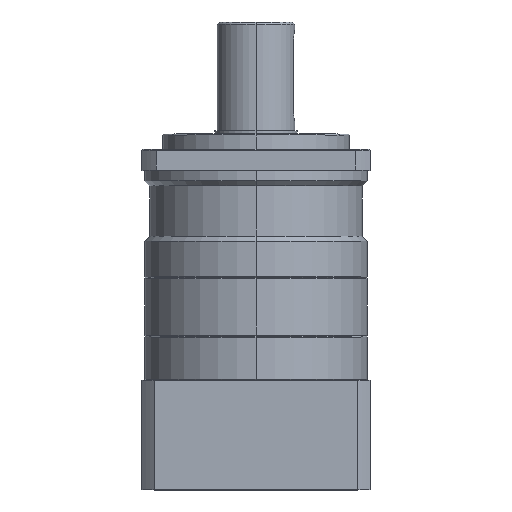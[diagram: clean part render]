
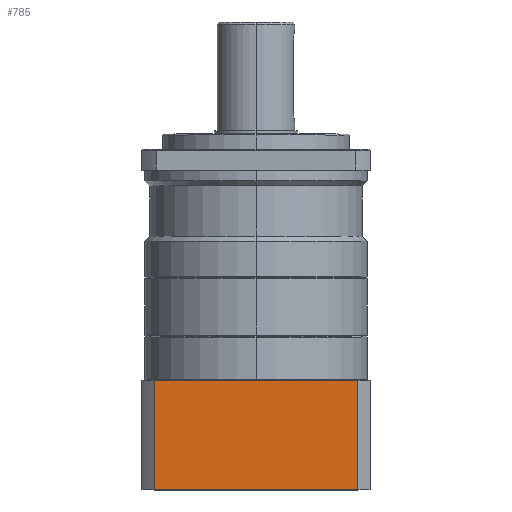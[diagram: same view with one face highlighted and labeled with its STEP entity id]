
A CAD part, top view. The second image highlights one B-rep face of the part: STEP entity #785.
In plain terms, the highlighted planar face has unit normal (0, 0, 1).
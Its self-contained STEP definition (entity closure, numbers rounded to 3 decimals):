
#4 = DIRECTION ( 'NONE',  ( 0., 0., -1. ) ) ;
#5 = DIRECTION ( 'NONE',  ( -1., 0., 0. ) ) ;
#382 = ORIENTED_EDGE ( 'NONE', *, *, #723, .F. ) ;
#396 = ORIENTED_EDGE ( 'NONE', *, *, #911, .F. ) ;
#398 = ORIENTED_EDGE ( 'NONE', *, *, #691, .T. ) ;
#403 = ORIENTED_EDGE ( 'NONE', *, *, #706, .F. ) ;
#691 = EDGE_CURVE ( 'NONE', #5232, #5227, #3876, .T. ) ;
#706 = EDGE_CURVE ( 'NONE', #5063, #5227, #3893, .T. ) ;
#723 = EDGE_CURVE ( 'NONE', #5246, #5063, #3920, .T. ) ;
#785 = ADVANCED_FACE ( 'NONE', ( #4018 ), #5295, .F. ) ;
#911 = EDGE_CURVE ( 'NONE', #5232, #5246, #4468, .T. ) ;
#952 = DIRECTION ( 'NONE',  ( 0., 1., 0. ) ) ;
#958 = CARTESIAN_POINT ( 'NONE',  ( -98.266, -247., 110. ) ) ;
#1019 = CARTESIAN_POINT ( 'NONE',  ( 110., -99., 110. ) ) ;
#1020 = DIRECTION ( 'NONE',  ( -1., 0., 0. ) ) ;
#1665 = CARTESIAN_POINT ( 'NONE',  ( -98.266, -204.5, 110. ) ) ;
#1734 = CARTESIAN_POINT ( 'NONE',  ( -98.266, -99., 110. ) ) ;
#1739 = CARTESIAN_POINT ( 'NONE',  ( 98.266, -99., 110. ) ) ;
#1753 = CARTESIAN_POINT ( 'NONE',  ( 98.266, -204.5, 110. ) ) ;
#2356 = AXIS2_PLACEMENT_3D ( 'NONE', #5292, #4, #5 ) ;
#3379 = CARTESIAN_POINT ( 'NONE',  ( 98.266, -247., 110. ) ) ;
#3385 = DIRECTION ( 'NONE',  ( 0., -1., 0. ) ) ;
#3669 = EDGE_LOOP ( 'NONE', ( #403, #382, #396, #398 ) ) ;
#3876 = LINE ( 'NONE', #1019, #3878 ) ;
#3878 = VECTOR ( 'NONE', #1020, 1000. ) ;
#3893 = LINE ( 'NONE', #958, #3900 ) ;
#3900 = VECTOR ( 'NONE', #952, 1000. ) ;
#3920 = LINE ( 'NONE', #4123, #3922 ) ;
#3922 = VECTOR ( 'NONE', #4046, 1000. ) ;
#4018 = FACE_OUTER_BOUND ( 'NONE', #3669, .T. ) ;
#4046 = DIRECTION ( 'NONE',  ( -1., 0., 0. ) ) ;
#4123 = CARTESIAN_POINT ( 'NONE',  ( 110., -204.5, 110. ) ) ;
#4468 = LINE ( 'NONE', #3379, #4472 ) ;
#4472 = VECTOR ( 'NONE', #3385, 1000. ) ;
#5063 = VERTEX_POINT ( 'NONE', #1665 ) ;
#5227 = VERTEX_POINT ( 'NONE', #1734 ) ;
#5232 = VERTEX_POINT ( 'NONE', #1739 ) ;
#5246 = VERTEX_POINT ( 'NONE', #1753 ) ;
#5292 = CARTESIAN_POINT ( 'NONE',  ( 110., -204.5, 110. ) ) ;
#5295 = PLANE ( 'NONE',  #2356 ) ;
